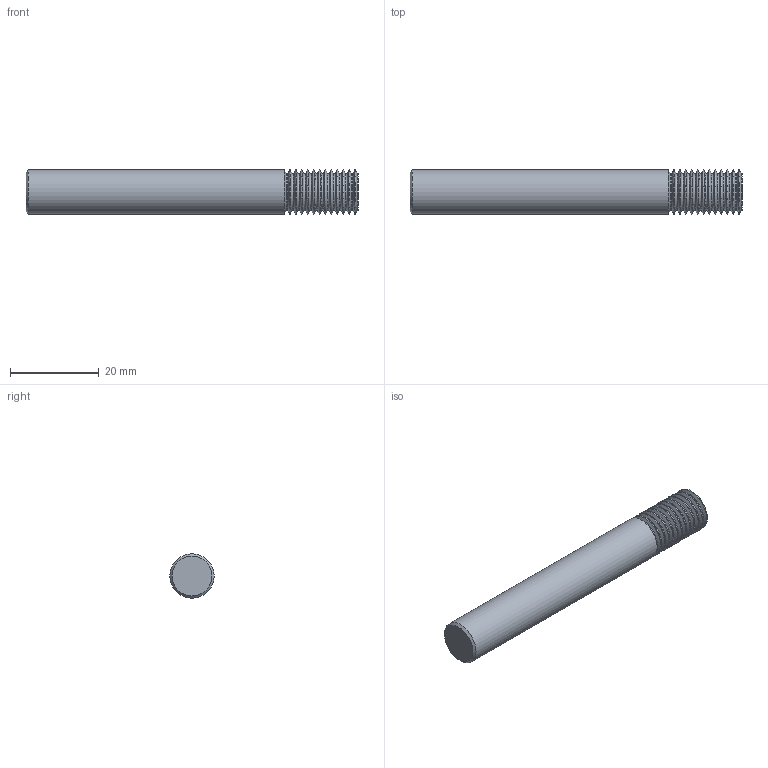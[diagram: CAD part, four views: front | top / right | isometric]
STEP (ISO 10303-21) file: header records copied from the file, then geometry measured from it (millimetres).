
FILE_DESCRIPTION(/* description */ (''),/* implementation_level */ '2;1');
FILE_NAME(/* name */ '00035536-TDM',/* time_stamp */ '2024-02-20T07:12:20+01:00',/* author */ (''),/* organization */ (''),/* preprocessor_version */ 'ST-DEVELOPER v16.5',/* originating_system */ 'HiCAD 2017 2201.0 Build 268',/* authorisation */ '');
FILE_SCHEMA (('AUTOMOTIVE_DESIGN { 1 0 10303 214 1 1 1 1 }'));
Length unit declared in the file: millimetre
Products named in the file (3): Root; ROTATIONSTEIL_0
Assembly tree (2 placements, depth 3):
  Root
    ROTATIONSTEIL_0
      ROTATIONSTEIL_0
Bounding box: 75 x 10 x 10 mm (x, y, z)
Volume: 5642.8 mm3; surface area: 2879.1 mm2
Topology: 2 solids, 2 shells, 57 faces, 110 edges, 57 vertices
Faces by surface type: cone 26, torus 26, plane 4, cylinder 1
Full cylindrical faces by diameter (mm): 10 x1
Entity records: 1734 total; most frequent: DIRECTION 232, CARTESIAN_POINT 171, AXIS2_PLACEMENT_3D 116, PRESENTATION_STYLE_ASSIGNMENT 112, COLOUR_RGB 112, DRAUGHTING_PRE_DEFINED_CURVE_FONT 110, CURVE_STYLE 110, OVER_RIDING_STYLED_ITEM 110
